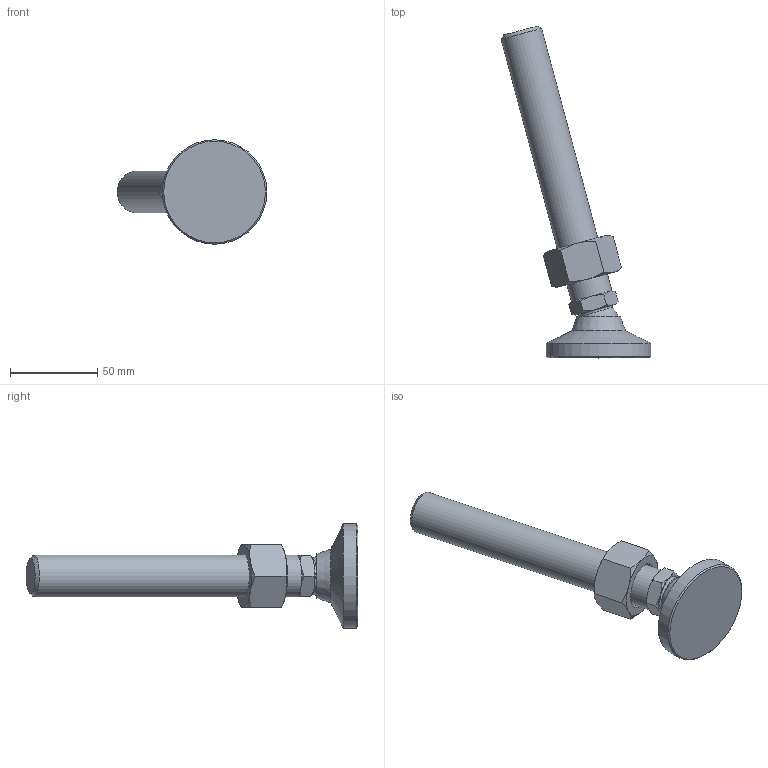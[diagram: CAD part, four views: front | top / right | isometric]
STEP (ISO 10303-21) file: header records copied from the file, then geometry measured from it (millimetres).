
FILE_DESCRIPTION( ( 'STEP AP214' ), ' ' );
FILE_NAME( 'O:/ganter_2015/teil_2/2_5/gn343_2/gn343_2_os/Levelling foot with threaded stud GN 343.2-60-M24-158-OS-(15).stp', '2015-10-26T09:09:13', ( '' ), ( '' ), ' ', 'PARTsolutions', ' ' );
FILE_SCHEMA( ( 'AUTOMOTIVE_DESIGN { 1 0 10303 214 1 1 1 1 }' ) );
Length unit declared in the file: millimetre
Products named in the file (4): Levelling foot with threaded stud GN 343.2-60-M24-158-OS-(15); _Levelling foot with threaded stud GN 343.2-60-M24-158-OS-(15)_foot; _Levelling foot with threaded stud GN 343.2-60-M24-158-OS-(15)_screw; _Stainless Steel-Levelling feet GN 343.2-60-M24-158-OS-(15)_nut
Assembly tree (3 placements, depth 2):
  Levelling foot with threaded stud GN 343.2-60-M24-158-OS-(15)
    _Levelling foot with threaded stud GN 343.2-60-M24-158-OS-(15)_foot
    _Levelling foot with threaded stud GN 343.2-60-M24-158-OS-(15)_screw
    _Stainless Steel-Levelling feet GN 343.2-60-M24-158-OS-(15)_nut
Bounding box: 85.97 x 190.68 x 60 mm (x, y, z)
Volume: 134113.5 mm3; surface area: 28537.7 mm2
Topology: 3 solids, 3 shells, 55 faces, 116 edges, 67 vertices
Faces by surface type: cone 30, plane 18, cylinder 3, torus 2, sphere 2
Full cylindrical faces by diameter (mm): 20.752 x1, 24 x1, 60 x1
Entity records: 2078 total; most frequent: CARTESIAN_POINT 535, DIRECTION 208, ORIENTED_EDGE 198, EDGE_CURVE 99, AXIS2_PLACEMENT_3D 98, EDGE_LOOP 70, VERTEX_POINT 65, FACE_OUTER_BOUND 60
